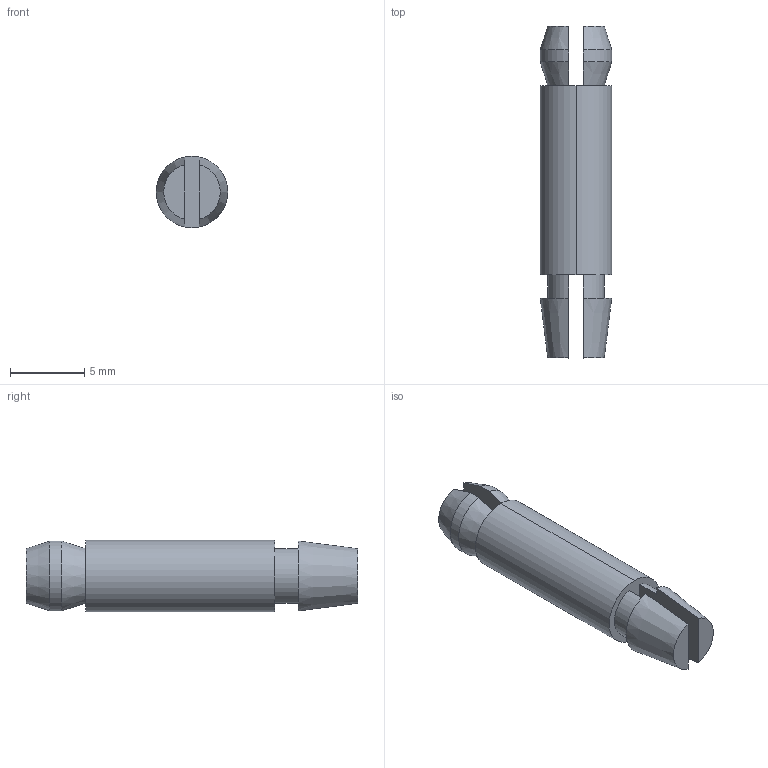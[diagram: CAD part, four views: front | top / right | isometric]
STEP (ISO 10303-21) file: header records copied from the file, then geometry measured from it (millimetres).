
FILE_DESCRIPTION (( 'STEP AP214' ), '1' );
FILE_NAME ('SP-12.7.STEP', '2014-12-30T11:13:19', ( 'Tester2' ), ( '' ), 'SwSTEP 2.0', 'SolidWorks 2012', '' );
FILE_SCHEMA (( 'AUTOMOTIVE_DESIGN' ));
Length unit declared in the file: millimetre
Products named in the file (1): SP-12.7
Bounding box: 4.8 x 22.3 x 4.8 mm (x, y, z)
Volume: 327 mm3; surface area: 424.1 mm2
Topology: 1 solids, 1 shells, 24 faces, 54 edges, 36 vertices
Faces by surface type: plane 12, cylinder 6, cone 6
Entity records: 724 total; most frequent: CARTESIAN_POINT 151, DIRECTION 112, ORIENTED_EDGE 108, EDGE_CURVE 54, AXIS2_PLACEMENT_3D 45, VERTEX_POINT 36, EDGE_LOOP 28, FACE_OUTER_BOUND 24
